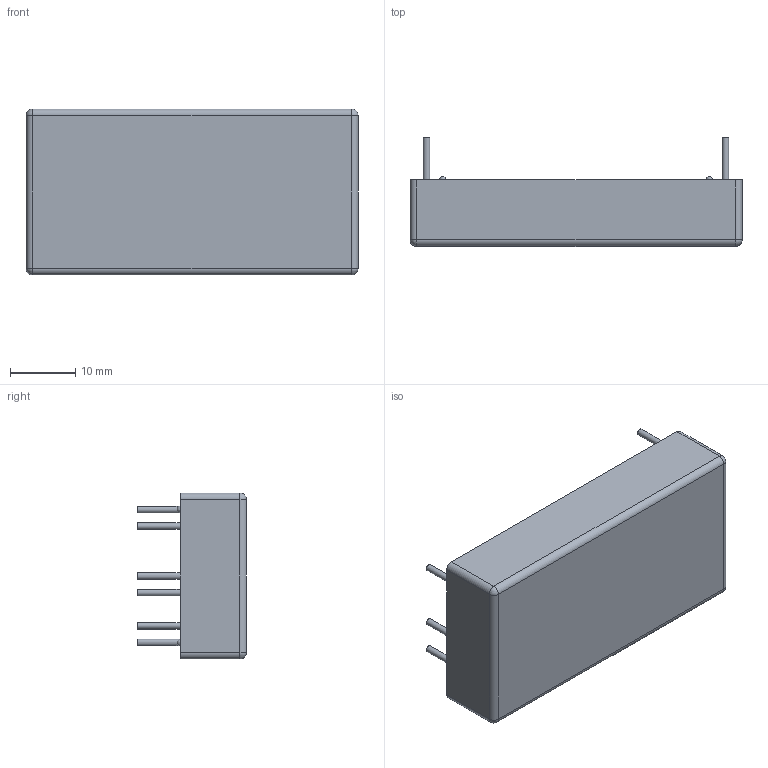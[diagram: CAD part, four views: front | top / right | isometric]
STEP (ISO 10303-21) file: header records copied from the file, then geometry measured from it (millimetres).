
FILE_DESCRIPTION(/* description */ ('Unknown'),/* implementation_level */ '2;1');
FILE_NAME(/* name */ 'JCK40(S)',/* time_stamp */ '2017-11-29T16:27:53+08:00',/* author */ ('Unknown'),/* organization */ ('Unknown'),/* preprocessor_version */ 'ST-DEVELOPER v16.7',/* originating_system */ 'DEX',/* authorisation */ $);
FILE_SCHEMA (('AUTOMOTIVE_DESIGN {1 0 10303 214 3 1 1}'));
Length unit declared in the file: millimetre
Products named in the file (1): JCK40(S)
Bounding box: 50.8 x 16.66 x 25.4 mm (x, y, z)
Volume: 13100.6 mm3; surface area: 4170.4 mm2
Topology: 1 solids, 1 shells, 34 faces, 74 edges, 40 vertices
Faces by surface type: cylinder 14, plane 12, sphere 8
Full cylindrical faces by diameter (mm): 1 x6
Entity records: 810 total; most frequent: DIRECTION 154, CARTESIAN_POINT 123, ORIENTED_EDGE 104, AXIS2_PLACEMENT_3D 67, EDGE_CURVE 52, EDGE_LOOP 50, FACE_BOUND 50, VERTEX_POINT 36
